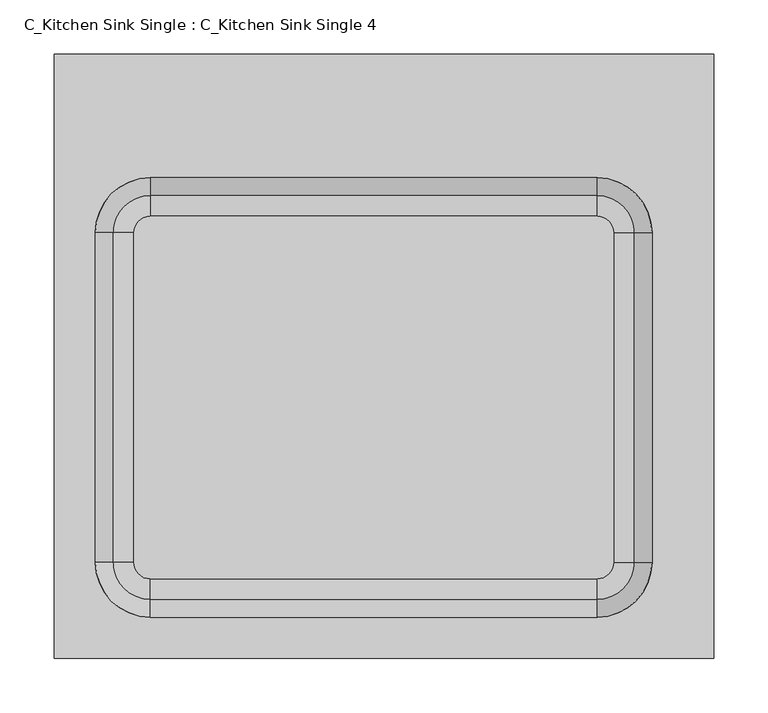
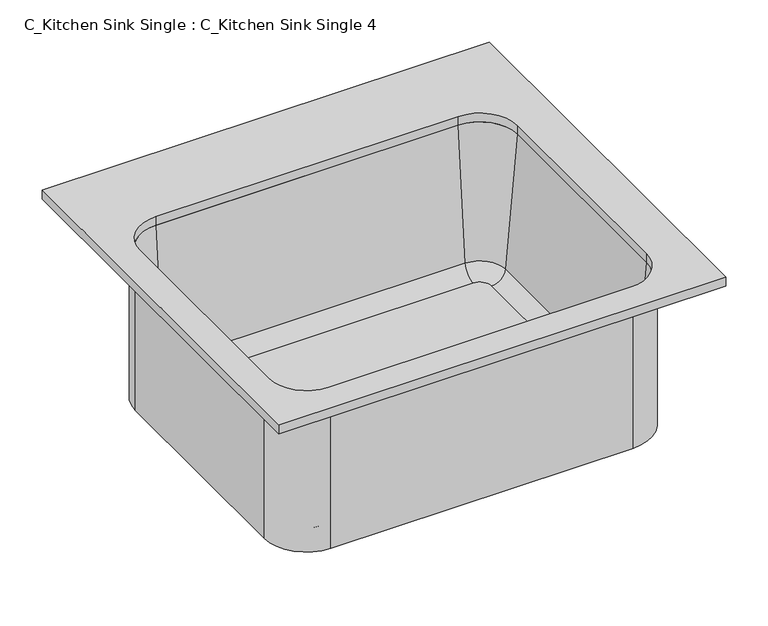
"""IFC4 building model written with IfcOpenShell, lengths in millimetres: flow terminal geometry, C_Kitchen Sink Single : C_Kitchen Sink Single 4."""

from ifc_helpers import new_model, si_unit, point, frame, frame_2d, origin, origin_with_axes, place, context, project, spatial, polyline, circle_curve, ellipse_curve, trimmed, segment, composite_curve, outline, extrude, source, transform, mapped, element, save
from ifc_brep_helpers import plane_surface, cylinder_surface, revolved_surface, advanced_brep


def c_kitchen_sink_single_c_kitchen_sink_single_4_a6143ec4(model_context):
    return source(origin(), model_context, "Body", "SolidModel", [
        advanced_brep(
        [(-38.8723412, 116.6454011, -206.375), (-54.1607594, 131.9338193, -206.375), (-466.9107594, 131.9338193, -206.375), (-482.1991776, 116.6454011, -206.375), (-482.1991776, -188.1545989, -206.375), (-466.9107594, -203.4430171, -206.375), (-54.1607594, -203.4430171, -206.375), (-38.8723412, -188.1545989, -206.375), (-524.0607594, 116.6454011, -215.9), (-466.9107594, 173.7954011, -215.9), (-54.1607594, 173.7954011, -215.9), (2.9892406, 116.6454011, -215.9), (2.9892406, -188.1545989, -215.9), (-54.1607594, -245.3045989, -215.9), (-466.9107594, -245.3045989, -215.9), (-524.0607594, -188.1545989, -215.9), (-54.1607594, 173.7954011, 0.0), (2.9892406, 116.6454011, 0.0), (-19.8948322, 116.6454011, -188.9853169), (-54.1607594, 150.9113283, -188.9853169), (-3.3607594, 116.6454011, 0.0), (-54.1607594, 167.4454011, 0.0), (2.9892406, -188.1545989, 0.0), (-19.8948322, -188.1545989, -188.9853169), (-3.3607594, -188.1545989, 0.0), (-54.1607594, -245.3045989, 0.0), (-54.1607594, -222.4205261, -188.9853169), (-54.1607594, -238.9545989, 0.0), (-466.9107594, -245.3045989, 0.0), (-466.9107594, -222.4205261, -188.9853169), (-466.9107594, -238.9545989, 0.0), (-524.0607594, -188.1545989, 0.0), (-501.1766866, -188.1545989, -188.9853169), (-517.7107594, -188.1545989, 0.0), (-524.0607594, 116.6454011, 0.0), (-501.1766866, 116.6454011, -188.9853169), (-517.7107594, 116.6454011, 0.0), (-466.9107594, 173.7954011, 0.0), (-466.9107594, 150.9113283, -188.9853169), (-466.9107594, 167.4454011, 0.0)],
        [
            (0, 1, circle_curve(frame((-54.1607594, 116.6454011, -206.375), z_axis=(0.0, 0.0, 1.0), x_axis=(0.0, 1.0, 0.0)), 15.2884182)),
            (1, 2),
            (2, 3, circle_curve(frame((-466.9107594, 116.6454011, -206.375), z_axis=(0.0, 0.0, 1.0), x_axis=(-1.0, 0.0, 0.0)), 15.2884182)),
            (3, 4),
            (4, 5, circle_curve(frame((-466.9107594, -188.1545989, -206.375), z_axis=(0.0, 0.0, 1.0), x_axis=(0.0, -1.0, 0.0)), 15.2884182)),
            (5, 6),
            (6, 7, circle_curve(frame((-54.1607594, -188.1545989, -206.375), z_axis=(0.0, 0.0, 1.0), x_axis=(1.0, 0.0, 0.0)), 15.2884182)),
            (7, 0),
            (8, 9, circle_curve(frame((-466.9107594, 116.6454011, -215.9), z_axis=(0.0, 0.0, -1.0), x_axis=(-1.0, 0.0, 0.0)), 57.15)),
            (9, 10),
            (10, 11, circle_curve(frame((-54.1607594, 116.6454011, -215.9), z_axis=(0.0, 0.0, -1.0), x_axis=(0.0, 1.0, 0.0)), 57.15)),
            (11, 12),
            (12, 13, circle_curve(frame((-54.1607594, -188.1545989, -215.9), z_axis=(0.0, 0.0, -1.0), x_axis=(1.0, 0.0, 0.0)), 57.15)),
            (13, 14),
            (14, 15, circle_curve(frame((-466.9107594, -188.1545989, -215.9), z_axis=(0.0, 0.0, -1.0), x_axis=(0.0, -1.0, 0.0)), 57.15)),
            (15, 8),
            (10, 16),
            (16, 17, circle_curve(frame((-54.1607594, 116.6454011, 0.0), z_axis=(0.0, 0.0, -1.0), x_axis=(0.0, 1.0, 0.0)), 57.15)),
            (17, 11),
            (0, 18, circle_curve(frame((-38.8723412, 116.6454011, -187.325), z_axis=(0.0, -1.0, 0.0), x_axis=(1.0, 0.0, 0.0)), 19.05)),
            (18, 19, circle_curve(frame((-54.1607594, 116.6454011, -188.9853169), z_axis=(0.0, 0.0, 1.0), x_axis=(0.0, 1.0, 0.0)), 34.2659272)),
            (19, 1, circle_curve(frame((-54.1607594, 131.9338193, -187.325), z_axis=(-1.0, 0.0, 0.0), x_axis=(0.0, 1.0, 0.0)), 19.05)),
            (18, 20),
            (20, 21, circle_curve(frame((-54.1607594, 116.6454011, 0.0), z_axis=(0.0, 0.0, 1.0), x_axis=(0.0, 1.0, 0.0)), 50.8)),
            (21, 19),
            (16, 21),
            (20, 17),
            (17, 22),
            (22, 12),
            (7, 23, circle_curve(frame((-38.8723412, -188.1545989, -187.325), z_axis=(0.0, -1.0, 0.0), x_axis=(1.0, 0.0, 0.0)), 19.05)),
            (23, 18),
            (23, 24),
            (24, 20),
            (24, 22),
            (22, 25, circle_curve(frame((-54.1607594, -188.1545989, 0.0), z_axis=(0.0, 0.0, -1.0), x_axis=(1.0, 0.0, 0.0)), 57.15)),
            (25, 13),
            (6, 26, circle_curve(frame((-54.1607594, -203.4430171, -187.325), z_axis=(-1.0, 0.0, 0.0), x_axis=(0.0, -1.0, 0.0)), 19.05)),
            (26, 23, circle_curve(frame((-54.1607594, -188.1545989, -188.9853169), z_axis=(0.0, 0.0, 1.0), x_axis=(1.0, 0.0, 0.0)), 34.2659272)),
            (26, 27),
            (27, 24, circle_curve(frame((-54.1607594, -188.1545989, 0.0), z_axis=(0.0, 0.0, 1.0), x_axis=(1.0, 0.0, 0.0)), 50.8)),
            (27, 25),
            (25, 28),
            (28, 14),
            (5, 29, circle_curve(frame((-466.9107594, -203.4430171, -187.325), z_axis=(-1.0, 0.0, 0.0), x_axis=(0.0, -1.0, 0.0)), 19.05)),
            (29, 26),
            (29, 30),
            (30, 27),
            (30, 28),
            (28, 31, circle_curve(frame((-466.9107594, -188.1545989, 0.0), z_axis=(0.0, 0.0, -1.0), x_axis=(0.0, -1.0, 0.0)), 57.15)),
            (31, 15),
            (4, 32, circle_curve(frame((-482.1991776, -188.1545989, -187.325), z_axis=(0.0, 1.0, 0.0), x_axis=(-1.0, 0.0, 0.0)), 19.05)),
            (32, 29, circle_curve(frame((-466.9107594, -188.1545989, -188.9853169), z_axis=(0.0, 0.0, 1.0), x_axis=(0.0, -1.0, 0.0)), 34.2659272)),
            (32, 33),
            (33, 30, circle_curve(frame((-466.9107594, -188.1545989, 0.0), z_axis=(0.0, 0.0, 1.0), x_axis=(0.0, -1.0, 0.0)), 50.8)),
            (33, 31),
            (31, 34),
            (34, 8),
            (3, 35, circle_curve(frame((-482.1991776, 116.6454011, -187.325), z_axis=(0.0, 1.0, 0.0), x_axis=(-1.0, 0.0, 0.0)), 19.05)),
            (35, 32),
            (35, 36),
            (36, 33),
            (36, 34),
            (34, 37, circle_curve(frame((-466.9107594, 116.6454011, 0.0), z_axis=(0.0, 0.0, -1.0), x_axis=(-1.0, 0.0, 0.0)), 57.15)),
            (37, 9),
            (2, 38, circle_curve(frame((-466.9107594, 131.9338193, -187.325), z_axis=(1.0, 0.0, 0.0), x_axis=(0.0, 1.0, 0.0)), 19.05)),
            (38, 35, circle_curve(frame((-466.9107594, 116.6454011, -188.9853169), z_axis=(0.0, 0.0, 1.0), x_axis=(-1.0, 0.0, 0.0)), 34.2659272)),
            (38, 39),
            (39, 36, circle_curve(frame((-466.9107594, 116.6454011, 0.0), z_axis=(0.0, 0.0, 1.0), x_axis=(-1.0, 0.0, 0.0)), 50.8)),
            (39, 37),
            (37, 16),
            (19, 38),
            (21, 39),
        ],
        [
            plane_surface(frame((-466.9107594, 129.3454011, -206.375), z_axis=(0.0, 0.0, 1.0), x_axis=(-1.0, 0.0, 0.0))),
            plane_surface(frame((-466.9107594, 129.3454011, -215.9), z_axis=(0.0, 0.0, -1.0), x_axis=(1.0, 0.0, 0.0))),
            cylinder_surface(frame((-54.1607594, 116.6454011, 0.0), z_axis=(0.0, 0.0, -1.0), x_axis=(0.0, 1.0, 0.0)), 57.15),
            revolved_surface(trimmed(ellipse_curve(frame((-54.1607594, 131.9338193, -187.325), z_axis=(1.0, 0.0, 0.0), x_axis=(0.0, 1.0, 0.0)), 19.05, 19.05), [point((-54.1607594, 131.9338193, -206.375))], [point((-54.1607594, 150.9113283, -188.9853169))], True, "CARTESIAN"), (-54.1607594, 116.6454011, 0.0), (0.0, 0.0, -1.0)),
            revolved_surface(polyline([(-54.1607594, 150.9113283, -188.9853169), (-54.1607594, 167.4454011, 0.0)]), (-54.1607594, 116.6454011, 0.0), (0.0, 0.0, -1.0)),
            plane_surface(frame((-54.1607594, 116.6454011, 0.0), z_axis=(0.0, 0.0, 1.0), x_axis=(0.0, 1.0, 0.0))),
            plane_surface(frame((2.9892406, 116.6454011, 0.0), z_axis=(1.0, 0.0, 0.0), x_axis=(0.0, -1.0, 0.0))),
            revolved_surface(polyline([(-19.8223412, -188.1545989, -187.325), (-19.8223412, 116.6454011, -187.325)]), (-38.8723412, 116.6454011, -187.325), (0.0, -1.0, 0.0)),
            plane_surface(frame((-19.8948322, 116.6454011, -188.9853169), z_axis=(-0.996194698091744, 0.0, 0.08715574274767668), x_axis=(0.0, -1.0, 0.0))),
            plane_surface(frame((-3.3607594, 116.6454011, 0.0), z_axis=(0.0, 0.0, 1.0), x_axis=(0.0, -1.0, 0.0))),
            cylinder_surface(frame((-54.1607594, -188.1545989, 0.0), z_axis=(0.0, 0.0, -1.0), x_axis=(1.0, 0.0, 0.0)), 57.15),
            revolved_surface(trimmed(ellipse_curve(frame((-38.8723412, -188.1545989, -187.325), z_axis=(0.0, -1.0, 0.0), x_axis=(1.0, 0.0, 0.0)), 19.05, 19.05), [point((-38.8723412, -188.1545989, -206.375))], [point((-19.8948322, -188.1545989, -188.9853169))], True, "CARTESIAN"), (-54.1607594, -188.1545989, 0.0), (0.0, 0.0, -1.0)),
            revolved_surface(polyline([(-19.8948322, -188.1545989, -188.9853169), (-3.3607594, -188.1545989, 0.0)]), (-54.1607594, -188.1545989, 0.0), (0.0, 0.0, -1.0)),
            plane_surface(frame((-54.1607594, -188.1545989, 0.0), z_axis=(0.0, 0.0, 1.0), x_axis=(1.0, 0.0, 0.0))),
            plane_surface(frame((-54.1607594, -245.3045989, 0.0), z_axis=(0.0, -1.0, 0.0), x_axis=(-1.0, 0.0, 0.0))),
            revolved_surface(polyline([(-466.9107594, -222.4930171, -187.325), (-54.1607594, -222.4930171, -187.325)]), (-54.1607594, -203.4430171, -187.325), (-1.0, 0.0, 0.0)),
            plane_surface(frame((-54.1607594, -222.4205261, -188.9853169), z_axis=(0.0, 0.996194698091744, 0.08715574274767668), x_axis=(-1.0, 0.0, 0.0))),
            plane_surface(frame((-54.1607594, -238.9545989, 0.0), z_axis=(0.0, 0.0, 1.0), x_axis=(-1.0, 0.0, 0.0))),
            cylinder_surface(frame((-466.9107594, -188.1545989, 0.0), z_axis=(0.0, 0.0, -1.0), x_axis=(0.0, -1.0, 0.0)), 57.15),
            revolved_surface(trimmed(ellipse_curve(frame((-466.9107594, -203.4430171, -187.325), z_axis=(-1.0, 0.0, 0.0), x_axis=(0.0, -1.0, 0.0)), 19.05, 19.05), [point((-466.9107594, -203.4430171, -206.375))], [point((-466.9107594, -222.4205261, -188.9853169))], True, "CARTESIAN"), (-466.9107594, -188.1545989, 0.0), (0.0, 0.0, -1.0)),
            revolved_surface(polyline([(-466.9107594, -222.4205261, -188.9853169), (-466.9107594, -238.9545989, 0.0)]), (-466.9107594, -188.1545989, 0.0), (0.0, 0.0, -1.0)),
            plane_surface(frame((-466.9107594, -188.1545989, 0.0), z_axis=(0.0, 0.0, 1.0), x_axis=(0.0, -1.0, 0.0))),
            plane_surface(frame((-524.0607594, -188.1545989, 0.0), z_axis=(-1.0, 0.0, 0.0), x_axis=(0.0, 1.0, 0.0))),
            revolved_surface(polyline([(-501.2491776, 116.64540110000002, -187.325), (-501.2491776, -188.1545989, -187.325)]), (-482.1991776, -188.1545989, -187.325), (0.0, 1.0, 0.0)),
            plane_surface(frame((-501.1766866, -188.1545989, -188.9853169), z_axis=(0.996194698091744, 0.0, 0.08715574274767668), x_axis=(0.0, 1.0, 0.0))),
            plane_surface(frame((-517.7107594, -188.1545989, 0.0), z_axis=(0.0, 0.0, 1.0), x_axis=(0.0, 1.0, 0.0))),
            cylinder_surface(frame((-466.9107594, 116.6454011, 0.0), z_axis=(0.0, 0.0, -1.0), x_axis=(-1.0, 0.0, 0.0)), 57.15),
            revolved_surface(trimmed(ellipse_curve(frame((-482.1991776, 116.6454011, -187.325), z_axis=(0.0, 1.0, 0.0), x_axis=(-1.0, 0.0, 0.0)), 19.05, 19.05), [point((-482.1991776, 116.6454011, -206.375))], [point((-501.1766866, 116.6454011, -188.9853169))], True, "CARTESIAN"), (-466.9107594, 116.6454011, 0.0), (0.0, 0.0, -1.0)),
            revolved_surface(polyline([(-501.1766866, 116.6454011, -188.9853169), (-517.7107594, 116.6454011, 0.0)]), (-466.9107594, 116.6454011, 0.0), (0.0, 0.0, -1.0)),
            plane_surface(frame((-466.9107594, 116.6454011, 0.0), z_axis=(0.0, 0.0, 1.0), x_axis=(-1.0, 0.0, 0.0))),
            plane_surface(frame((-466.9107594, 173.7954011, 0.0), z_axis=(0.0, 1.0, 0.0), x_axis=(1.0, 0.0, 0.0))),
            revolved_surface(polyline([(-54.16075940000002, 150.98381930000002, -187.325), (-466.9107594, 150.98381930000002, -187.325)]), (-466.9107594, 131.9338193, -187.325), (1.0, 0.0, 0.0)),
            plane_surface(frame((-466.9107594, 150.9113283, -188.9853169), z_axis=(0.0, -0.996194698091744, 0.08715574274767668), x_axis=(1.0, 0.0, 0.0))),
            plane_surface(frame((-466.9107594, 167.4454011, 0.0), z_axis=(0.0, 0.0, 1.0), x_axis=(1.0, 0.0, 0.0))),
        ],
        [
            (0, [[1, 2, 3, 4, 5, 6, 7, 8]]),
            (1, [[9, 10, 11, 12, 13, 14, 15, 16]]),
            (2, [[-11, 17, 18, 19]]),
            (3, [[-1, 20, 21, 22]]),
            (4, [[-21, 23, 24, 25]]),
            (5, [[-18, 26, -24, 27]]),
            (6, [[-19, 28, 29, -12]]),
            (7, [[-20, -8, 30, 31]]),
            (8, [[-23, -31, 32, 33]]),
            (9, [[-27, -33, 34, -28]]),
            (10, [[-29, 35, 36, -13]]),
            (11, [[-30, -7, 37, 38]]),
            (12, [[-32, -38, 39, 40]]),
            (13, [[-34, -40, 41, -35]]),
            (14, [[-36, 42, 43, -14]]),
            (15, [[-37, -6, 44, 45]]),
            (16, [[-39, -45, 46, 47]]),
            (17, [[-41, -47, 48, -42]]),
            (18, [[-43, 49, 50, -15]]),
            (19, [[-44, -5, 51, 52]]),
            (20, [[-46, -52, 53, 54]]),
            (21, [[-48, -54, 55, -49]]),
            (22, [[-50, 56, 57, -16]]),
            (23, [[-51, -4, 58, 59]]),
            (24, [[-53, -59, 60, 61]]),
            (25, [[-55, -61, 62, -56]]),
            (26, [[-57, 63, 64, -9]]),
            (27, [[-58, -3, 65, 66]]),
            (28, [[-60, -66, 67, 68]]),
            (29, [[-62, -68, 69, -63]]),
            (30, [[-17, -10, -64, 70]]),
            (31, [[-22, 71, -65, -2]]),
            (32, [[-25, 72, -67, -71]]),
            (33, [[-26, -70, -69, -72]]),
        ],
    ),
        extrude(outline(polyline([(53.7892406, 281.7454011), (53.7892406, -277.0545989), (-555.8107594, -277.0545989), (-555.8107594, 281.7454011), (53.7892406, 281.7454011)]), holes=[composite_curve([segment(polyline([(-54.1607594, 167.4454011), (-466.9107594, 167.4454011)]), True, "CONTINUOUS"), segment(trimmed(circle_curve(frame_2d((-466.9107594, 116.6454011)), 50.8), [point((-466.9107594, 167.4454011))], [point((-517.7107594, 116.6454011))], True, "CARTESIAN"), True, "CONTINUOUS"), segment(polyline([(-517.7107594, 116.6454011), (-517.7107594, -188.1545989)]), True, "CONTINUOUS"), segment(trimmed(circle_curve(frame_2d((-466.9107594, -188.1545989)), 50.8), [point((-517.7107594, -188.1545989))], [point((-466.9107594, -238.9545989))], True, "CARTESIAN"), True, "CONTINUOUS"), segment(polyline([(-466.9107594, -238.9545989), (-54.1607594, -238.9545989)]), True, "CONTINUOUS"), segment(trimmed(circle_curve(frame_2d((-54.1607594, -188.1545989)), 50.8), [point((-54.1607594, -238.9545989))], [point((-3.3607594, -188.1545989))], True, "CARTESIAN"), True, "CONTINUOUS"), segment(polyline([(-3.3607594, -188.1545989), (-3.3607594, 116.6454011)]), True, "CONTINUOUS"), segment(trimmed(circle_curve(frame_2d((-54.1607594, 116.6454011)), 50.8), [point((-3.3607594, 116.6454011))], [point((-54.1607594, 167.4454011))], True, "CARTESIAN"), True, "CONTINUOUS")], self_intersect=False)]), origin_with_axes(), (0.0, 0.0, 1.0), 12.7),
    ])


if __name__ == "__main__":
    model = new_model("IFC4")
    model_context = context("Model", 3, world=origin())
    ifc_project = project(units=[si_unit("LENGTHUNIT", "METRE", prefix="MILLI")], contexts=[model_context])
    site = spatial("IfcSite", under=ifc_project)
    building = spatial("IfcBuilding", under=site)
    placement = place(None, origin())
    c_kitchen_sink_single_c_kitchen_sink_single_4_shape = c_kitchen_sink_single_c_kitchen_sink_single_4_a6143ec4(model_context)
    element("IfcFlowTerminal", 1, ObjectType="C_Kitchen Sink Single : C_Kitchen Sink Single 4", at=placement, inside=building, context=model_context, shape_type="MappedRepresentation", body=[
        mapped(c_kitchen_sink_single_c_kitchen_sink_single_4_shape, transform((0.0, 0.0, 0.0), x_axis=(1.0, 0.0, 0.0), y_axis=(0.0, 1.0, 0.0), z_axis=(0.0, 0.0, 1.0))),
    ])
    save(model, "model.ifc")
